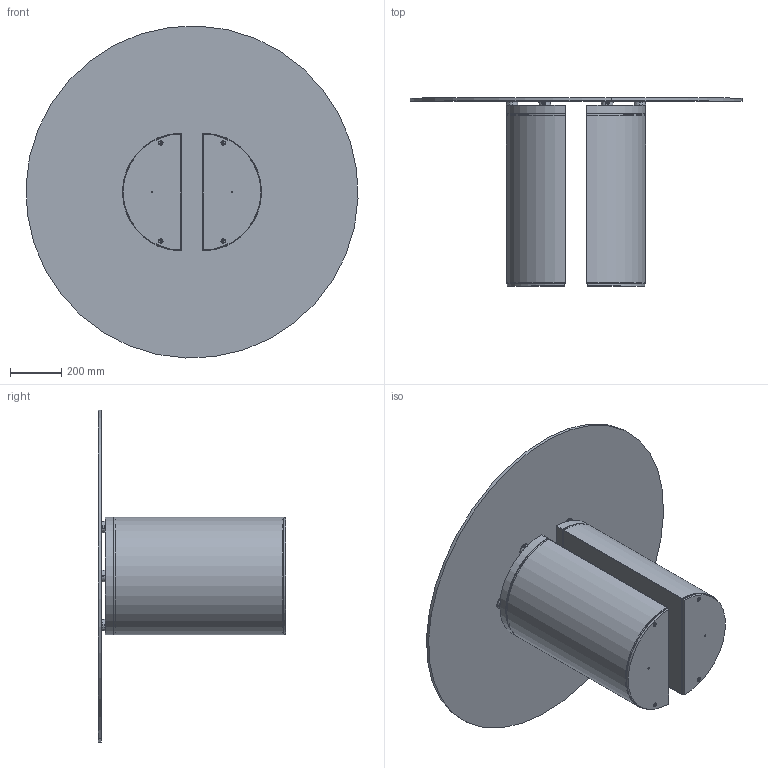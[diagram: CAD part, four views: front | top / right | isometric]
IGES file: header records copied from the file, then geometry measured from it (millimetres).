
Start section: SolidWorks IGES file using analytic representation for surfaces
Global section: file name: Y:\eforma\TECNICO\SOLIDWORKS\E-FORMA\1-TAVOLI\DORA\02 parts\130.IGS; native system: SolidWorks 2022; preprocessor: SolidWorks 2022; author: eforma.tech; date: 240806.162725; units: millimetre
Bounding box: 1299.03 x 735.5 x 1299.03 mm (x, y, z)
Volume: 27435034 mm3; surface area: 7058223.7 mm2
Topology: 37 solids, 37 shells, 734 faces, 1634 edges, 982 vertices
Faces by surface type: revolution 436, plane 286, bspline 12
